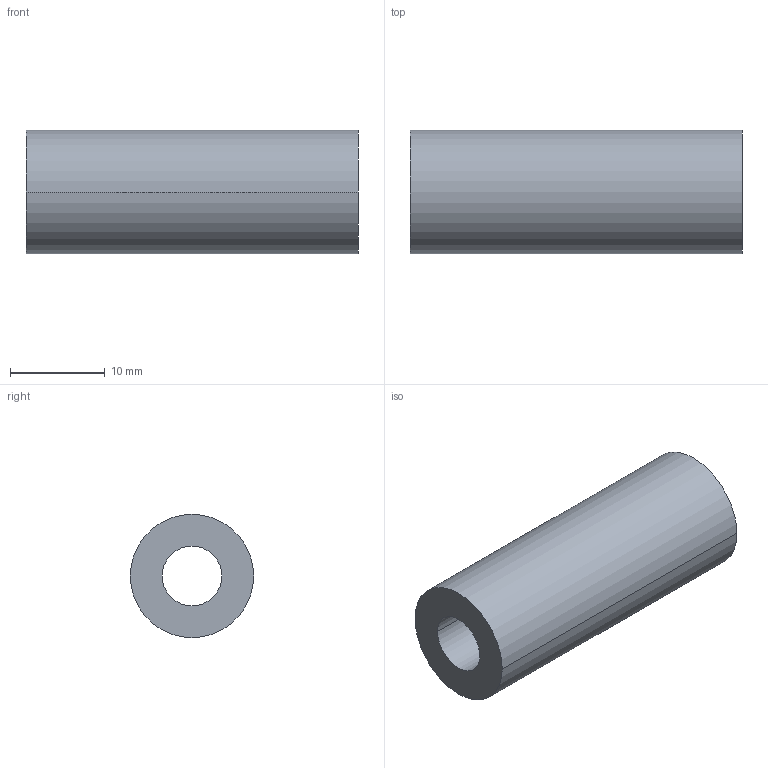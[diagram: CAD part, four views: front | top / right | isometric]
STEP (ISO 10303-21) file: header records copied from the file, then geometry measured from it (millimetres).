
FILE_DESCRIPTION(/* description */ ('(C) Elphel, Inc. 2012. Licensed under CERN OHL v.1.1 or later, see http://ohwr.org/cernohl'),/* implementation_level */ '2;1');
FILE_NAME(/* name */ '0353-88-51',/* time_stamp */ '2012-06-08T18:55:00-06:00',/* author */ (''),/* organization */ ('Elphel, Inc'),/* preprocessor_version */ 'ST-DEVELOPER v12',/* originating_system */ 'VariCAD 2012-1.04; kernel version (20100102)',/* authorisation */ '');
FILE_SCHEMA (('AUTOMOTIVE_DESIGN'));
Length unit declared in the file: millimetre
Products named in the file (1): Part
Bounding box: 35 x 13 x 13 mm (x, y, z)
Volume: 3554.6 mm3; surface area: 2325.3 mm2
Topology: 1 solids, 1 shells, 6 faces, 12 edges, 8 vertices
Faces by surface type: cylinder 4, plane 2
Entity records: 195 total; most frequent: DIRECTION 36, CARTESIAN_POINT 28, ORIENTED_EDGE 24, AXIS2_PLACEMENT_3D 16, EDGE_CURVE 12, EDGE_LOOP 8, CIRCLE 8, VERTEX_POINT 8
